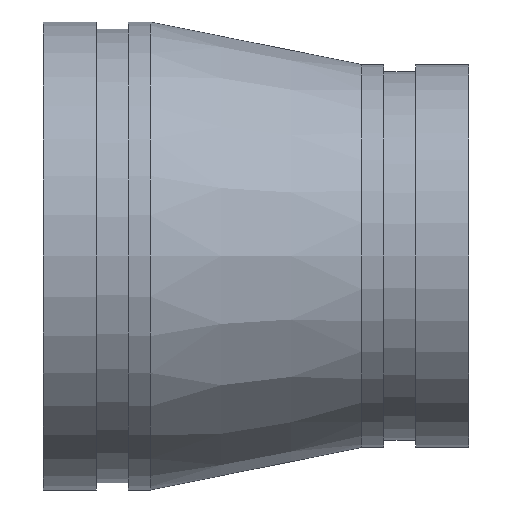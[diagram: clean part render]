
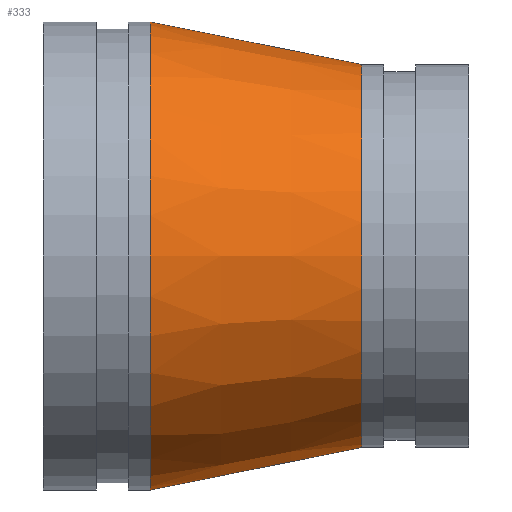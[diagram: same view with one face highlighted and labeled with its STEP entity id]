
A CAD part, front view. The second image highlights one B-rep face of the part: STEP entity #333.
In plain terms, the highlighted conical face has half-angle 11.399 degrees and reference radius 63.5 mm.
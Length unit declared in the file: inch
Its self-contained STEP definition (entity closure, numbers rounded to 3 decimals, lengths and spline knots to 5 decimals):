
#65=FACE_OUTER_BOUND('',#81,.T.);
#81=EDGE_LOOP('',(#229,#230,#231,#232,#233,#234));
#103=LINE('',#571,#113);
#113=VECTOR('',#438,2.5);
#123=CIRCLE('',#370,2.25);
#124=CIRCLE('',#371,2.25);
#125=CIRCLE('',#372,2.75);
#126=CIRCLE('',#373,2.75);
#155=VERTEX_POINT('',#566);
#156=VERTEX_POINT('',#567);
#157=VERTEX_POINT('',#570);
#158=VERTEX_POINT('',#572);
#187=EDGE_CURVE('',#155,#156,#123,.T.);
#188=EDGE_CURVE('',#156,#155,#124,.T.);
#189=EDGE_CURVE('',#156,#157,#103,.T.);
#190=EDGE_CURVE('',#157,#158,#125,.T.);
#191=EDGE_CURVE('',#158,#157,#126,.T.);
#229=ORIENTED_EDGE('',*,*,#187,.F.);
#230=ORIENTED_EDGE('',*,*,#188,.F.);
#231=ORIENTED_EDGE('',*,*,#189,.T.);
#232=ORIENTED_EDGE('',*,*,#190,.T.);
#233=ORIENTED_EDGE('',*,*,#191,.T.);
#234=ORIENTED_EDGE('',*,*,#189,.F.);
#313=CONICAL_SURFACE('',#369,2.5,0.199);
#333=ADVANCED_FACE('',(#65),#313,.T.);
#369=AXIS2_PLACEMENT_3D('',#565,#432,#433);
#370=AXIS2_PLACEMENT_3D('',#568,#434,#435);
#371=AXIS2_PLACEMENT_3D('',#569,#436,#437);
#372=AXIS2_PLACEMENT_3D('',#573,#439,#440);
#373=AXIS2_PLACEMENT_3D('',#574,#441,#442);
#432=DIRECTION('center_axis',(-1.,0.,0.));
#433=DIRECTION('ref_axis',(0.,1.,0.));
#434=DIRECTION('center_axis',(1.,0.,0.));
#435=DIRECTION('ref_axis',(0.,1.,0.));
#436=DIRECTION('center_axis',(1.,0.,0.));
#437=DIRECTION('ref_axis',(0.,1.,0.));
#438=DIRECTION('',(-0.98,-0.198,0.));
#439=DIRECTION('center_axis',(1.,0.,0.));
#440=DIRECTION('ref_axis',(0.,1.,0.));
#441=DIRECTION('center_axis',(1.,0.,0.));
#442=DIRECTION('ref_axis',(0.,1.,0.));
#565=CARTESIAN_POINT('Origin',(2.5,0.,0.));
#566=CARTESIAN_POINT('',(3.74,2.25,0.));
#567=CARTESIAN_POINT('',(3.74,-2.25,0.));
#568=CARTESIAN_POINT('Origin',(3.74,0.,0.));
#569=CARTESIAN_POINT('Origin',(3.74,0.,0.));
#570=CARTESIAN_POINT('',(1.26,-2.75,0.));
#571=CARTESIAN_POINT('',(2.5,-2.5,0.));
#572=CARTESIAN_POINT('',(1.26,2.75,0.));
#573=CARTESIAN_POINT('Origin',(1.26,0.,0.));
#574=CARTESIAN_POINT('Origin',(1.26,0.,0.));
